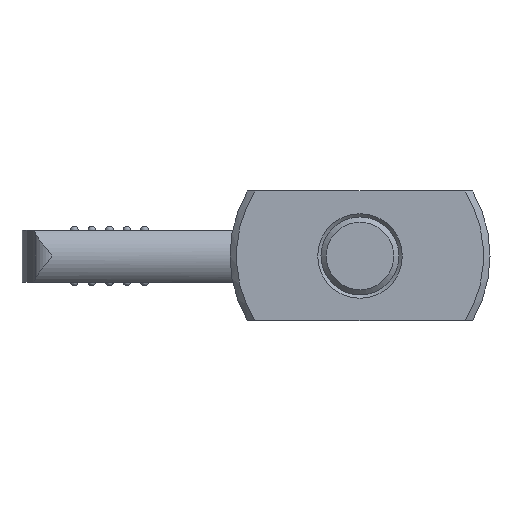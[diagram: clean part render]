
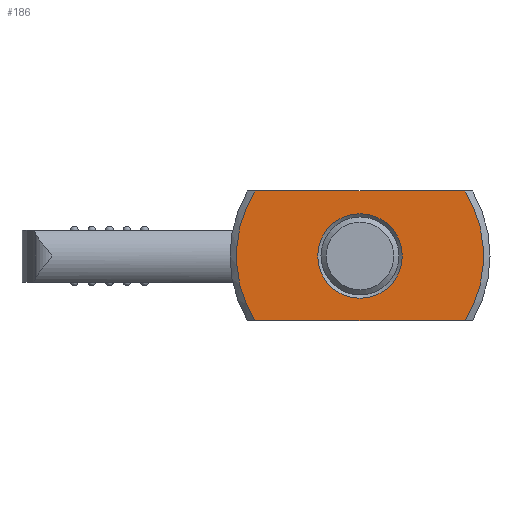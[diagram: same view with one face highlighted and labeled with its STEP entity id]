
A CAD part, front view. The second image highlights one B-rep face of the part: STEP entity #186.
In plain terms, the highlighted planar face has unit normal (0, -1, 0).
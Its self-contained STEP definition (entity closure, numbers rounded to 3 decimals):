
#186 = ADVANCED_FACE( '', ( #310, #311 ), #312, .F. );
#310 = FACE_BOUND( '', #557, .T. );
#311 = FACE_OUTER_BOUND( '', #558, .T. );
#312 = PLANE( '', #559 );
#557 = EDGE_LOOP( '', ( #908 ) );
#558 = EDGE_LOOP( '', ( #909, #910, #911, #912 ) );
#559 = AXIS2_PLACEMENT_3D( '', #913, #914, #915 );
#908 = ORIENTED_EDGE( '', *, *, #1531, .F. );
#909 = ORIENTED_EDGE( '', *, *, #1521, .T. );
#910 = ORIENTED_EDGE( '', *, *, #1517, .T. );
#911 = ORIENTED_EDGE( '', *, *, #1510, .T. );
#912 = ORIENTED_EDGE( '', *, *, #1532, .T. );
#913 = CARTESIAN_POINT( '', ( 19., 0., 0. ) );
#914 = DIRECTION( '', ( 0., 1., 0. ) );
#915 = DIRECTION( '', ( 0., 0., 1. ) );
#1510 = EDGE_CURVE( '', #1741, #1742, #1743, .T. );
#1517 = EDGE_CURVE( '', #1754, #1741, #1755, .T. );
#1521 = EDGE_CURVE( '', #1761, #1754, #1762, .T. );
#1531 = EDGE_CURVE( '', #1775, #1775, #1776, .T. );
#1532 = EDGE_CURVE( '', #1742, #1761, #1777, .T. );
#1741 = VERTEX_POINT( '', #2316 );
#1742 = VERTEX_POINT( '', #2317 );
#1743 = CIRCLE( '', #2318, 19. );
#1754 = VERTEX_POINT( '', #2336 );
#1755 = LINE( '', #2337, #2338 );
#1761 = VERTEX_POINT( '', #2348 );
#1762 = CIRCLE( '', #2349, 19. );
#1775 = VERTEX_POINT( '', #2392 );
#1776 = CIRCLE( '', #2393, 6.5 );
#1777 = LINE( '', #2394, #2395 );
#2316 = CARTESIAN_POINT( '', ( 16.155, 0., -10. ) );
#2317 = CARTESIAN_POINT( '', ( 16.155, 0., 10. ) );
#2318 = AXIS2_PLACEMENT_3D( '', #2795, #2796, #2797 );
#2336 = CARTESIAN_POINT( '', ( -16.155, 0., -10. ) );
#2337 = CARTESIAN_POINT( '', ( 19., 0., -10. ) );
#2338 = VECTOR( '', #2808, 1000. );
#2348 = CARTESIAN_POINT( '', ( -16.155, 0., 10. ) );
#2349 = AXIS2_PLACEMENT_3D( '', #2813, #2814, #2815 );
#2392 = CARTESIAN_POINT( '', ( 0., 0., -6.5 ) );
#2393 = AXIS2_PLACEMENT_3D( '', #2827, #2828, #2829 );
#2394 = CARTESIAN_POINT( '', ( 19., 0., 10. ) );
#2395 = VECTOR( '', #2830, 1000. );
#2795 = CARTESIAN_POINT( '', ( 0., 0., 0. ) );
#2796 = DIRECTION( '', ( 0., -1., 0. ) );
#2797 = DIRECTION( '', ( 0., 0., -1. ) );
#2808 = DIRECTION( '', ( 1., 0., 0. ) );
#2813 = CARTESIAN_POINT( '', ( 0., 0., 0. ) );
#2814 = DIRECTION( '', ( 0., -1., 0. ) );
#2815 = DIRECTION( '', ( 0., 0., -1. ) );
#2827 = CARTESIAN_POINT( '', ( 0., 0., 0. ) );
#2828 = DIRECTION( '', ( 0., -1., 0. ) );
#2829 = DIRECTION( '', ( 0., 0., -1. ) );
#2830 = DIRECTION( '', ( -1., 0., 0. ) );
